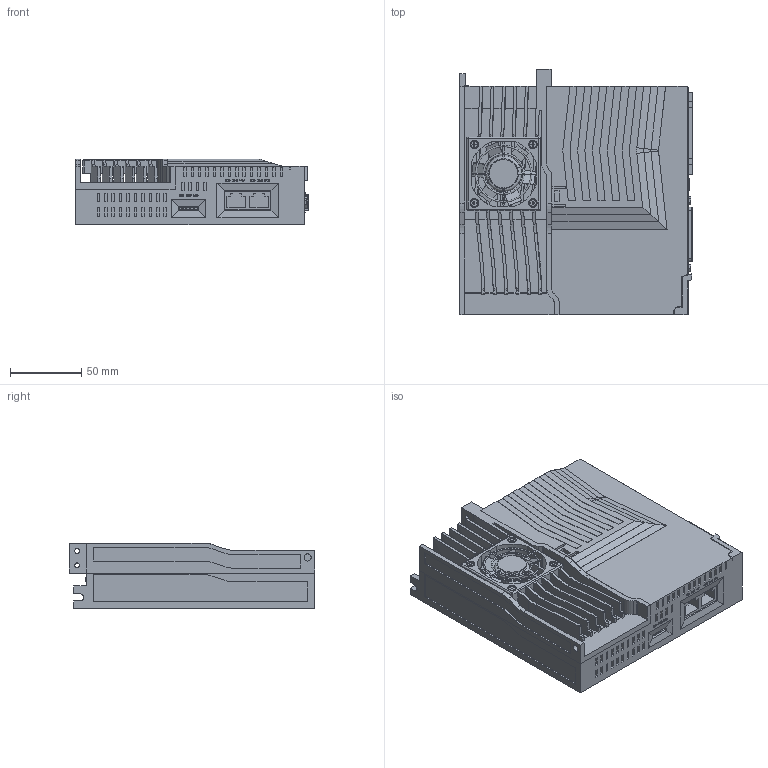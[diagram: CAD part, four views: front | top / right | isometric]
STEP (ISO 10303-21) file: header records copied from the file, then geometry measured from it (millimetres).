
FILE_DESCRIPTION (( 'STEP AP214' ), '1' );
FILE_NAME ('伺服驱动器.STEP', '2022-07-22T08:11:34', ( '' ), ( '' ), 'SwSTEP 2.0', 'SolidWorks 2020', '' );
FILE_SCHEMA (( 'AUTOMOTIVE_DESIGN' ));
Length unit declared in the file: millimetre
Products named in the file (6): 盒子^伺服驱动器;  铝板2^伺服驱动器;  风扇^伺服驱动器; cross recessed cheese head screws type a gb_GB_CROSS_SCREWS_TYPE135 M3X4-N; 伺服驱动器; cross recessed cheese head screws gb_GB_CROSS_SCREWS_TYPE2 M2.5X3-3  H type-N
Assembly tree (8 placements, depth 2):
  伺服驱动器
    盒子^伺服驱动器
     铝板2^伺服驱动器
     风扇^伺服驱动器
    cross recessed cheese head screws type a gb_GB_CROSS_SCREWS_TYPE135 M3X4-N  x4
    cross recessed cheese head screws gb_GB_CROSS_SCREWS_TYPE2 M2.5X3-3  H type-N
Bounding box: 163 x 172 x 46 mm (x, y, z)
Volume: 980786.3 mm3; surface area: 157075.2 mm2
Topology: 15 solids, 15 shells, 3121 faces, 8149 edges, 5367 vertices
Faces by surface type: plane 2436, bspline 364, cylinder 252, torus 34, cone 32, sphere 3
Entity records: 130157 total; most frequent: CARTESIAN_POINT 34452, ORIENTED_EDGE 15880, DIRECTION 12825, EDGE_CURVE 7940, VECTOR 6477, LINE 6477, VERTEX_POINT 5235, EDGE_LOOP 3403
